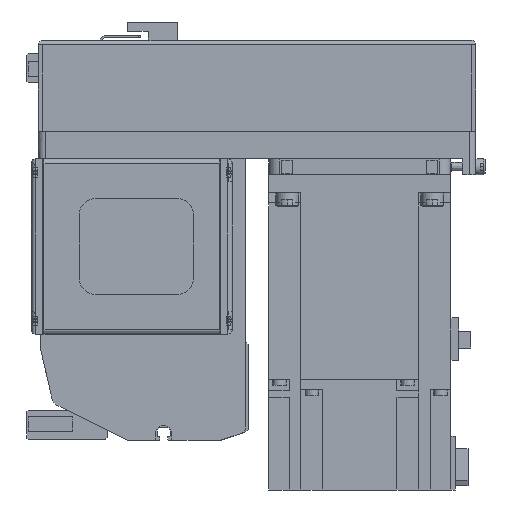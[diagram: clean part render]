
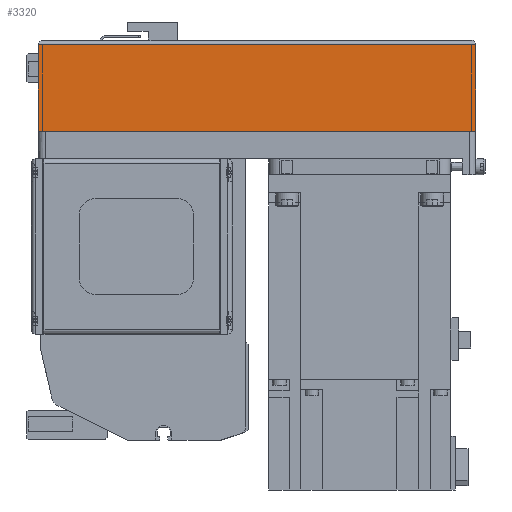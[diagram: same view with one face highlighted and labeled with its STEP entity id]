
A CAD part, left-side view. The second image highlights one B-rep face of the part: STEP entity #3320.
In plain terms, the highlighted planar face has unit normal (-1, 0, 0) as drawn and (0, -1, 0) by its records, which use the part's own axes.
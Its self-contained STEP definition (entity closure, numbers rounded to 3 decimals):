
#3320 = ADVANCED_FACE( '', ( #6947 ), #6948, .T. );
#6947 = FACE_OUTER_BOUND( '', #10627, .T. );
#6948 = PLANE( '', #10628 );
#10627 = EDGE_LOOP( '', ( #20048, #20049, #20050, #20051 ) );
#10628 = AXIS2_PLACEMENT_3D( '', #20052, #20053, #20054 );
#20048 = ORIENTED_EDGE( '', *, *, #24097, .F. );
#20049 = ORIENTED_EDGE( '', *, *, #23336, .F. );
#20050 = ORIENTED_EDGE( '', *, *, #22699, .T. );
#20051 = ORIENTED_EDGE( '', *, *, #21468, .T. );
#20052 = CARTESIAN_POINT( '', ( -192., -40., -12.1 ) );
#20053 = DIRECTION( '', ( 0., -1., 0. ) );
#20054 = DIRECTION( '', ( 0., 0., -1. ) );
#21468 = EDGE_CURVE( '', #25895, #25899, #25901, .T. );
#22699 = EDGE_CURVE( '', #27870, #25895, #27871, .T. );
#23336 = EDGE_CURVE( '', #27870, #28761, #28762, .T. );
#24097 = EDGE_CURVE( '', #28761, #25899, #29694, .T. );
#25895 = VERTEX_POINT( '', #32193 );
#25899 = VERTEX_POINT( '', #32198 );
#25901 = LINE( '', #32200, #32201 );
#27870 = VERTEX_POINT( '', #35104 );
#27871 = LINE( '', #35105, #35106 );
#28761 = VERTEX_POINT( '', #36569 );
#28762 = LINE( '', #36570, #36571 );
#29694 = LINE( '', #38330, #38331 );
#32193 = CARTESIAN_POINT( '', ( -192., -40., -50. ) );
#32198 = CARTESIAN_POINT( '', ( 0., -40., -50. ) );
#32200 = CARTESIAN_POINT( '', ( -192., -40., -50. ) );
#32201 = VECTOR( '', #39994, 1000. );
#35104 = CARTESIAN_POINT( '', ( -192., -40., -12.1 ) );
#35105 = CARTESIAN_POINT( '', ( -192., -40., -12.1 ) );
#35106 = VECTOR( '', #41563, 1000. );
#36569 = CARTESIAN_POINT( '', ( 0., -40., -12.1 ) );
#36570 = CARTESIAN_POINT( '', ( -192., -40., -12.1 ) );
#36571 = VECTOR( '', #42224, 1000. );
#38330 = CARTESIAN_POINT( '', ( 0., -40., -12.1 ) );
#38331 = VECTOR( '', #42898, 1000. );
#39994 = DIRECTION( '', ( 1., 0., 0. ) );
#41563 = DIRECTION( '', ( 0., 0., -1. ) );
#42224 = DIRECTION( '', ( 1., 0., 0. ) );
#42898 = DIRECTION( '', ( 0., 0., -1. ) );
